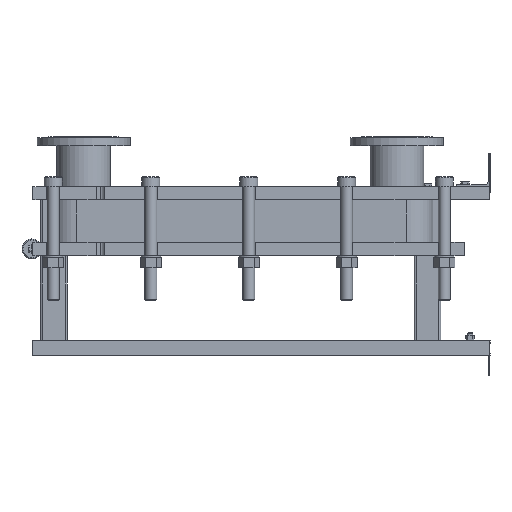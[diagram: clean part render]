
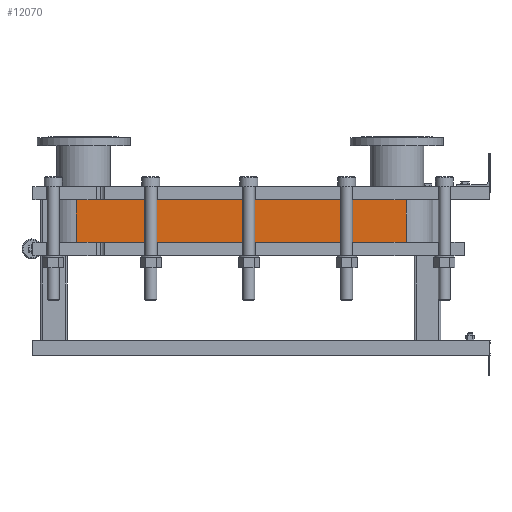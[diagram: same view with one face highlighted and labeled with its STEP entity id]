
A CAD part, left-side view. The second image highlights one B-rep face of the part: STEP entity #12070.
In plain terms, the highlighted planar face has unit normal (-1, 0, 0).
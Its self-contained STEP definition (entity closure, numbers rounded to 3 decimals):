
#1064=LINE('',#21140,#2164);
#1065=LINE('',#21144,#2165);
#1066=LINE('',#21146,#2166);
#1067=LINE('',#21147,#2167);
#2164=VECTOR('',#15790,10.);
#2165=VECTOR('',#15795,10.);
#2166=VECTOR('',#15796,10.);
#2167=VECTOR('',#15797,10.);
#3304=FACE_OUTER_BOUND('',#4091,.T.);
#4091=EDGE_LOOP('',(#9793,#9794,#9795,#9796));
#5677=VERTEX_POINT('',#21137);
#5678=VERTEX_POINT('',#21139);
#5679=VERTEX_POINT('',#21143);
#5680=VERTEX_POINT('',#21145);
#7118=EDGE_CURVE('',#5678,#5677,#1064,.T.);
#7120=EDGE_CURVE('',#5677,#5679,#1065,.T.);
#7121=EDGE_CURVE('',#5680,#5679,#1066,.T.);
#7122=EDGE_CURVE('',#5680,#5678,#1067,.T.);
#9793=ORIENTED_EDGE('',*,*,#7120,.T.);
#9794=ORIENTED_EDGE('',*,*,#7121,.F.);
#9795=ORIENTED_EDGE('',*,*,#7122,.T.);
#9796=ORIENTED_EDGE('',*,*,#7118,.T.);
#11441=PLANE('',#13191);
#12070=ADVANCED_FACE('',(#3304),#11441,.T.);
#13191=AXIS2_PLACEMENT_3D('',#21142,#15793,#15794);
#15790=DIRECTION('',(0.,0.,-1.));
#15793=DIRECTION('center_axis',(-1.,0.,0.));
#15794=DIRECTION('ref_axis',(0.,1.,0.));
#15795=DIRECTION('',(0.,-1.,0.));
#15796=DIRECTION('',(0.,0.,-1.));
#15797=DIRECTION('',(0.,1.,0.));
#21137=CARTESIAN_POINT('',(-248.152,1243.818,-127.65));
#21139=CARTESIAN_POINT('',(-248.152,1243.818,0.));
#21140=CARTESIAN_POINT('',(-248.152,1243.818,0.));
#21142=CARTESIAN_POINT('Origin',(-248.152,251.818,0.));
#21143=CARTESIAN_POINT('',(-248.152,251.818,-127.65));
#21144=CARTESIAN_POINT('',(-248.152,499.818,-127.65));
#21145=CARTESIAN_POINT('',(-248.152,251.818,0.));
#21146=CARTESIAN_POINT('',(-248.152,251.818,0.));
#21147=CARTESIAN_POINT('',(-248.152,251.818,0.));
